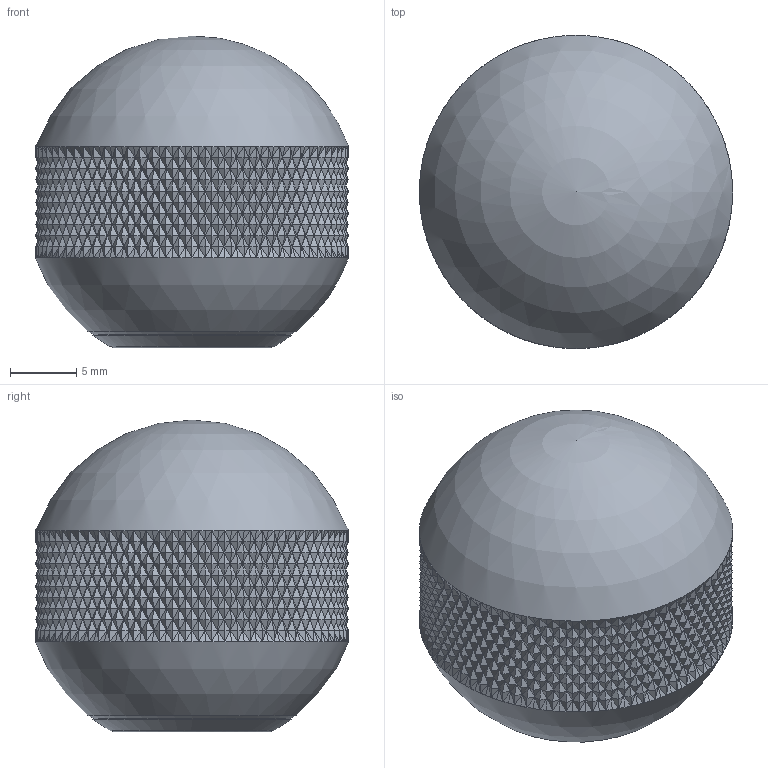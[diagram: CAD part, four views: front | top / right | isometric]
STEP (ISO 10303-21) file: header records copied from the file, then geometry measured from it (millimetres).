
FILE_DESCRIPTION(('Open CASCADE Model'),'2;1');
FILE_NAME('GR-BALL-knob-25','2026-10-19T21:25:32',('Author'),( 'Open CASCADE'),'Open CASCADE STEP processor 8.0','build123d', 'Unknown');
FILE_SCHEMA(('AUTOMOTIVE_DESIGN { 1 0 10303 214 1 1 1 1 }'));
Length unit declared in the file: millimetre
Products named in the file (2): GR-BALL-knob-25; brass_GR-BALL25__k
Assembly tree (1 placements, depth 2):
  GR-BALL-knob-25
    brass_GR-BALL25__k
Bounding box: 23.55 x 23.55 x 23.47 mm (x, y, z)
Volume: 7539.3 mm3; surface area: 2210.9 mm2
Topology: 1 solids, 1 shells, 3268 faces, 4904 edges, 1639 vertices
Faces by surface type: plane 3259, sphere 3, cylinder 3, cone 2, bspline 1
Full cylindrical faces by diameter (mm): 3.3 x1, 5.1 x1, 15.691 x1
Entity records: 123638 total; most frequent: CARTESIAN_POINT 24028, DIRECTION 17255, ORIENTED_EDGE 9806, PCURVE 9806, DEFINITIONAL_REPRESENTATION 9806, LINE 9803, VECTOR 9803, EDGE_CURVE 4903
